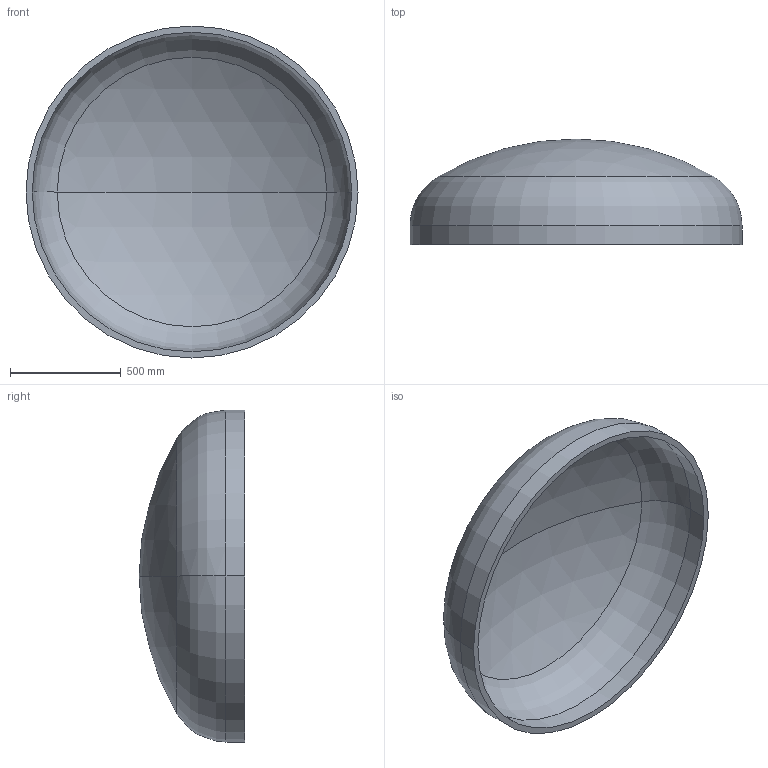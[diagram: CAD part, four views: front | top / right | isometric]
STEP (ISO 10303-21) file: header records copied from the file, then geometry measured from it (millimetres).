
FILE_DESCRIPTION (( 'STEP AP203' ), '1' );
FILE_NAME ('DIN 28013 Korbbogenform_-_Boden DIN 28013 - 1500 x 85 - I - s=28.step', '2016-07-01T10:41:35', ( '' ), ( '' ), 'SwSTEP 2.0', 'SolidWorks 2013', '' );
FILE_SCHEMA (( 'CONFIG_CONTROL_DESIGN' ));
Length unit declared in the file: millimetre
Products named in the file (1): DIN 28013 Korbbogenform_-_Boden DIN 28013 - 1500 x 85 - I - s=28
Bounding box: 1500 x 477.04 x 1500 mm (x, y, z)
Volume: 77812893 mm3; surface area: 5689187.9 mm2
Topology: 1 solids, 1 shells, 13 faces, 24 edges, 14 vertices
Faces by surface type: torus 4, cylinder 4, sphere 4, plane 1
Entity records: 407 total; most frequent: DIRECTION 72, CARTESIAN_POINT 52, ORIENTED_EDGE 48, AXIS2_PLACEMENT_3D 34, EDGE_CURVE 24, CIRCLE 20, EDGE_LOOP 14, VERTEX_POINT 14
